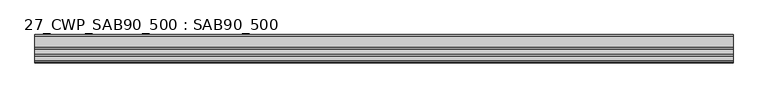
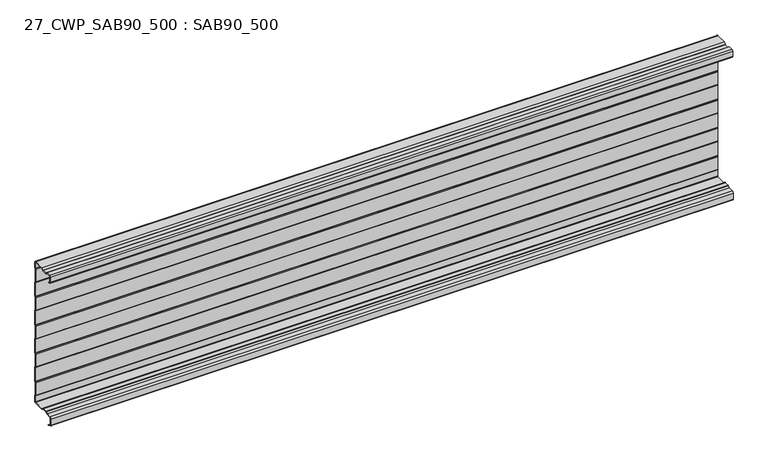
"""IFC4 building model written with IfcOpenShell, lengths in millimetres: plate geometry, 27_CWP_SAB90_500 : SAB90_500."""

import ifcopenshell
import ifcopenshell.guid

model = None  # the IFC model being written
_history = None  # IfcOwnerHistory: only IFC2X3 demands one
_inside = {}  # id of a spatial element -> (the spatial element, [elements in it])
_under = {}  # id of a project, library or spatial element -> (it, [spatial elements below it])
_declared = {}  # id of a project -> (the project, [libraries it declares])
_typed = {}  # id of a type object -> (the type object, [elements of that type])
_made_of = {}  # id of a material, layer set ... -> (it, [elements and type objects made of it])


def new_model(schema):
    """Start an empty IFC model of exactly this schema.

    Asked for "IFC4X3", IfcOpenShell would pick the latest addendum, in which some entities
    have other attributes; the version numbers below select the first issue.
    IFC2X3 requires an IfcOwnerHistory on every rooted entity: one is made here for all.
    """
    global model, _history
    if schema == "IFC4X3":
        model = ifcopenshell.file(schema_version=(4, 3, 0, 0))
    else:
        model = ifcopenshell.file(schema=schema)
    _inside.clear()
    _under.clear()
    _declared.clear()
    _typed.clear()
    _made_of.clear()
    _history = None
    if model.schema == "IFC2X3":
        org = make("IfcOrganization", Name="unknown")
        user = make(
            "IfcPersonAndOrganization",
            ThePerson=make("IfcPerson", FamilyName="unknown"),
            TheOrganization=org,
        )
        app = make(
            "IfcApplication",
            ApplicationDeveloper=org,
            Version="unknown",
            ApplicationFullName="unknown",
            ApplicationIdentifier="unknown",
        )
        _history = make(
            "IfcOwnerHistory",
            OwningUser=user,
            OwningApplication=app,
            ChangeAction="ADDED",
            CreationDate=0,
        )
    return model


def make(cls, **values):
    """One entity of the class cls with the attributes given. An attribute that is None is left unset."""
    return model.create_entity(
        cls, **{name: value for name, value in values.items() if value is not None}
    )


def rooted(cls, **values):
    """An entity with a GlobalId (a new one), such as an element, a storey or a relation."""
    return make(cls, GlobalId=ifcopenshell.guid.new(), OwnerHistory=_history, **values)


def si_unit(unit_type, name, prefix=None):
    """IfcSIUnit, for example si_unit("LENGTHUNIT", "METRE", prefix="MILLI")."""
    return make("IfcSIUnit", UnitType=unit_type, Prefix=prefix, Name=name)


def assignment(units):
    """IfcUnitAssignment: the units of a project."""
    return None if units is None else make("IfcUnitAssignment", Units=units)


def point(xyz):
    """IfcCartesianPoint."""
    return None if xyz is None else make("IfcCartesianPoint", Coordinates=xyz)


def direction(xyz):
    """IfcDirection."""
    return None if xyz is None else make("IfcDirection", DirectionRatios=xyz)


def frame(location, z_axis=None, x_axis=None):
    """IfcAxis2Placement3D, a coordinate frame: its origin and axes. An axis left out is left unset."""
    return make(
        "IfcAxis2Placement3D",
        Location=point(location),
        Axis=direction(z_axis),
        RefDirection=direction(x_axis),
    )


def frame_2d(location, x_axis=None):
    """IfcAxis2Placement2D, a coordinate frame in the plane: its origin and x axis."""
    return make(
        "IfcAxis2Placement2D", Location=point(location), RefDirection=direction(x_axis)
    )


def origin():
    """The frame at (0, 0, 0) with its axes left unset."""
    return frame((0.0, 0.0, 0.0))


def place(relative_to, where):
    """IfcLocalPlacement: puts the frame where relative to a parent placement (None: the world)."""
    return make(
        "IfcLocalPlacement", PlacementRelTo=relative_to, RelativePlacement=where
    )


def context(
    kind, dimensions, precision=None, world=None, true_north=None, identifier=None
):
    """IfcGeometricRepresentationContext, for example the 3D "Model" context."""
    return make(
        "IfcGeometricRepresentationContext",
        ContextIdentifier=identifier,
        ContextType=kind,
        CoordinateSpaceDimension=dimensions,
        Precision=precision,
        WorldCoordinateSystem=world,
        TrueNorth=true_north,
    )


def project(units=None, contexts=None):
    """IfcProject with its units and contexts."""
    return rooted(
        "IfcProject",
        Name="project",
        RepresentationContexts=contexts,
        UnitsInContext=assignment(units),
    )


def spatial(cls, under=None, at=None, **own):
    """A site, building, storey or space (cls), placed at a placement, below another one or the project."""
    s = rooted(cls, ObjectPlacement=at, **own)
    if under is not None:
        _under.setdefault(under.id(), (under, []))[1].append(s)
    return s


def polyline(points):
    """IfcPolyline through the points."""
    return make("IfcPolyline", Points=[point(p) for p in points])


def circle_curve(where, radius):
    """IfcCircle in the frame where."""
    return make("IfcCircle", Position=where, Radius=radius)


def trimmed(basis, trim1, trim2, sense, master):
    """IfcTrimmedCurve: the piece of a basis curve between two trims."""
    return make(
        "IfcTrimmedCurve",
        BasisCurve=basis,
        Trim1=trim1,
        Trim2=trim2,
        SenseAgreement=sense,
        MasterRepresentation=master,
    )


def segment(curve, same_sense, transition):
    """IfcCompositeCurveSegment."""
    return make(
        "IfcCompositeCurveSegment",
        Transition=transition,
        SameSense=same_sense,
        ParentCurve=curve,
    )


def composite_curve(segments, self_intersect=None):
    """IfcCompositeCurve: segments joined end to end."""
    return make("IfcCompositeCurve", Segments=segments, SelfIntersect=self_intersect)


def outline(outer, holes=None, kind="AREA"):
    """IfcArbitraryClosedProfileDef: a profile drawn as a closed curve; with holes, ...WithVoids."""
    if holes is None:
        return make("IfcArbitraryClosedProfileDef", ProfileType=kind, OuterCurve=outer)
    return make(
        "IfcArbitraryProfileDefWithVoids",
        ProfileType=kind,
        OuterCurve=outer,
        InnerCurves=holes,
    )


def extrude(swept, where, along, depth):
    """IfcExtrudedAreaSolid: the profile swept, set in the frame where, extruded along a direction by depth."""
    return make(
        "IfcExtrudedAreaSolid",
        SweptArea=swept,
        Position=where,
        ExtrudedDirection=direction(along),
        Depth=depth,
    )


def shape(context_of_items, identifier, shape_type, items):
    """IfcShapeRepresentation: the items that make up one representation, for example the "Body"."""
    return make(
        "IfcShapeRepresentation",
        ContextOfItems=context_of_items,
        RepresentationIdentifier=identifier,
        RepresentationType=shape_type,
        Items=items,
    )


def source(mapping_origin, context_of_items, identifier, shape_type, items):
    """IfcRepresentationMap: a shape defined once, which mapped items show again and again."""
    return make(
        "IfcRepresentationMap",
        MappingOrigin=mapping_origin,
        MappedRepresentation=shape(context_of_items, identifier, shape_type, items),
    )


def transform(
    local_origin,
    x_axis=None,
    y_axis=None,
    z_axis=None,
    scale=None,
    scale2=None,
    scale3=None,
    uniform=True,
):
    """IfcCartesianTransformationOperator3D, or its non-uniform kind. x_axis, y_axis, z_axis: its Axis1, 2, 3."""
    if uniform:
        return make(
            "IfcCartesianTransformationOperator3D",
            Axis1=direction(x_axis),
            Axis2=direction(y_axis),
            LocalOrigin=point(local_origin),
            Scale=scale,
            Axis3=direction(z_axis),
        )
    return make(
        "IfcCartesianTransformationOperator3DnonUniform",
        Axis1=direction(x_axis),
        Axis2=direction(y_axis),
        LocalOrigin=point(local_origin),
        Scale=scale,
        Axis3=direction(z_axis),
        Scale2=scale2,
        Scale3=scale3,
    )


def mapped(mapping_source, mapping_target):
    """IfcMappedItem: shows the shape of a source again, moved by a transform."""
    return make(
        "IfcMappedItem", MappingSource=mapping_source, MappingTarget=mapping_target
    )


def made_of(thing, what):
    """Note that an element or type object is made of a material, layer set ...; save() writes the relation."""
    if what is not None:
        _made_of.setdefault(what.id(), (what, []))[1].append(thing)
    return thing


def element(
    cls,
    number,
    at=None,
    inside=None,
    cuts=None,
    type_object=None,
    material=None,
    context=None,
    identifier="Body",
    shape_type=None,
    held_by="IfcProductDefinitionShape",
    body=None,
    shapes=None,
    **own,
):
    """One element of the class cls, such as IfcWall. Its Tag is "e" and its number.

    at: its placement. inside: the storey or other place that contains it. cuts: it is an
    opening in that element (IfcRelVoidsElement). A single representation is given by context,
    identifier, shape_type and body (its items); several are given by shapes. held_by: the class
    of the entity that holds the representations. save() writes the other relations.
    """
    e = rooted(cls, Tag="e%d" % number, ObjectPlacement=at, **own)
    if body is not None:
        shapes = [shape(context, identifier, shape_type, body)]
    if shapes is not None:
        e.Representation = make(held_by, Representations=shapes)
    if inside is not None:
        _inside.setdefault(inside.id(), (inside, []))[1].append(e)
    if cuts is not None:
        rooted(
            "IfcRelVoidsElement", RelatingBuildingElement=cuts, RelatedOpeningElement=e
        )
    if type_object is not None:
        _typed.setdefault(type_object.id(), (type_object, []))[1].append(e)
    return made_of(e, material)


def aggregate(whole, parts):
    """IfcRelAggregates: a whole, such as a stair, and the parts it consists of."""
    return rooted("IfcRelAggregates", RelatingObject=whole, RelatedObjects=parts)


def save(model, path):
    """Write the relations noted so far, then the file.

    IfcRelAggregates (storeys below a building ...), IfcRelContainedInSpatialStructure (elements
    in a storey), IfcRelDefinesByType, IfcRelAssociatesMaterial and IfcRelDeclares: one each for
    every whole, place, type object, material and project.
    """
    for whole, parts in _under.values():
        aggregate(whole, parts)
    for where, things in _inside.values():
        rooted(
            "IfcRelContainedInSpatialStructure",
            RelatedElements=things,
            RelatingStructure=where,
        )
    for kind, things in _typed.values():
        rooted("IfcRelDefinesByType", RelatedObjects=things, RelatingType=kind)
    for what, things in _made_of.values():
        rooted("IfcRelAssociatesMaterial", RelatedObjects=things, RelatingMaterial=what)
    for by, libraries in _declared.values():
        rooted("IfcRelDeclares", RelatingContext=by, RelatedDefinitions=libraries)
    model.write(path)


def plate_27_cwp_sab90_500_sab90_500_d7a8fa43(model_context):
    return source(origin(), model_context, "Body", "SweptSolid", [
        extrude(outline(composite_curve([segment(polyline([(6.3159597, 475.9214449), (11.2015813, 474.1432241), (10.517541, 472.2638389), (5.6319194, 474.0420597)]), True, "CONTINUOUS"), segment(trimmed(circle_curve(frame_2d((7.0, 477.8008302)), 4.0), [point((5.6319194, 474.0420597))], [point((3.0, 477.8008302))], False, "CARTESIAN"), True, "CONTINUOUS"), segment(polyline([(3.0, 477.8008302), (3.0, 496.0)]), True, "CONTINUOUS"), segment(trimmed(circle_curve(frame_2d((7.0, 496.0)), 4.0), [point((3.0, 496.0))], [point((7.0, 500.0))], False, "CARTESIAN"), True, "CONTINUOUS"), segment(polyline([(7.0, 500.0), (22.0, 500.0), (28.4784537, 495.3725331)]), True, "CONTINUOUS"), segment(trimmed(circle_curve(frame_2d((29.6409301, 497.0)), 2.0), [point((28.4784537, 495.3725331))], [point((29.6409301, 495.0))], True, "CARTESIAN"), True, "CONTINUOUS"), segment(polyline([(29.6409301, 495.0), (44.3590699, 495.0)]), True, "CONTINUOUS"), segment(trimmed(circle_curve(frame_2d((44.3590699, 497.0)), 2.0), [point((44.3590699, 495.0))], [point((45.5215463, 495.3725331))], True, "CARTESIAN"), True, "CONTINUOUS"), segment(polyline([(45.5215463, 495.3725331), (52.0, 500.0), (88.0, 500.0)]), True, "CONTINUOUS"), segment(trimmed(circle_curve(frame_2d((88.0, 496.0)), 4.0), [point((88.0, 500.0))], [point((92.0, 496.0))], False, "CARTESIAN"), True, "CONTINUOUS"), segment(polyline([(92.0, 496.0), (92.0, 475.0), (90.5857864, 473.5857864)]), True, "CONTINUOUS"), segment(trimmed(circle_curve(frame_2d((92.0, 472.1715729)), 2.0), [point((90.5857864, 473.5857864))], [point((90.0, 472.1715729))], True, "CARTESIAN"), True, "CONTINUOUS"), segment(polyline([(90.0, 472.1715729), (90.0, 427.8284271)]), True, "CONTINUOUS"), segment(trimmed(circle_curve(frame_2d((92.0, 427.8284271)), 2.0), [point((90.0, 427.8284271))], [point((90.5857864, 426.4142136))], True, "CARTESIAN"), True, "CONTINUOUS"), segment(polyline([(90.5857864, 426.4142136), (92.0, 425.0), (92.0, 375.0), (90.5857864, 373.5857864)]), True, "CONTINUOUS"), segment(trimmed(circle_curve(frame_2d((92.0, 372.1715729)), 2.0), [point((90.5857864, 373.5857864))], [point((90.0, 372.1715729))], True, "CARTESIAN"), True, "CONTINUOUS"), segment(polyline([(90.0, 372.1715729), (90.0, 327.8284271)]), True, "CONTINUOUS"), segment(trimmed(circle_curve(frame_2d((92.0, 327.8284271)), 2.0), [point((90.0, 327.8284271))], [point((90.5857864, 326.4142136))], True, "CARTESIAN"), True, "CONTINUOUS"), segment(polyline([(90.5857864, 326.4142136), (92.0, 325.0), (92.0, 275.0), (90.5857864, 273.5857864)]), True, "CONTINUOUS"), segment(trimmed(circle_curve(frame_2d((92.0, 272.1715729)), 2.0), [point((90.5857864, 273.5857864))], [point((90.0, 272.1715729))], True, "CARTESIAN"), True, "CONTINUOUS"), segment(polyline([(90.0, 272.1715729), (90.0, 227.8284271)]), True, "CONTINUOUS"), segment(trimmed(circle_curve(frame_2d((92.0, 227.8284271)), 2.0), [point((90.0, 227.8284271))], [point((90.5857864, 226.4142136))], True, "CARTESIAN"), True, "CONTINUOUS"), segment(polyline([(90.5857864, 226.4142136), (92.0, 225.0), (92.0, 175.0), (90.5857864, 173.5857864)]), True, "CONTINUOUS"), segment(trimmed(circle_curve(frame_2d((92.0, 172.1715729)), 2.0), [point((90.5857864, 173.5857864))], [point((90.0, 172.1715729))], True, "CARTESIAN"), True, "CONTINUOUS"), segment(polyline([(90.0, 172.1715729), (90.0, 127.8284271)]), True, "CONTINUOUS"), segment(trimmed(circle_curve(frame_2d((92.0, 127.8284271)), 2.0), [point((90.0, 127.8284271))], [point((90.5857864, 126.4142136))], True, "CARTESIAN"), True, "CONTINUOUS"), segment(polyline([(90.5857864, 126.4142136), (92.0, 125.0), (92.0, 75.0), (90.5857864, 73.5857864)]), True, "CONTINUOUS"), segment(trimmed(circle_curve(frame_2d((92.0, 72.1715729)), 2.0), [point((90.5857864, 73.5857864))], [point((90.0, 72.1715729))], True, "CARTESIAN"), True, "CONTINUOUS"), segment(polyline([(90.0, 72.1715729), (90.0, 27.8284271)]), True, "CONTINUOUS"), segment(trimmed(circle_curve(frame_2d((92.0, 27.8284271)), 2.0), [point((90.0, 27.8284271))], [point((90.5857864, 26.4142136))], True, "CARTESIAN"), True, "CONTINUOUS"), segment(polyline([(90.5857864, 26.4142136), (92.0, 25.0), (92.0, 4.0)]), True, "CONTINUOUS"), segment(trimmed(circle_curve(frame_2d((88.0, 4.0)), 4.0), [point((92.0, 4.0))], [point((88.0, 0.0))], False, "CARTESIAN"), True, "CONTINUOUS"), segment(polyline([(88.0, 0.0), (52.0, 0.0), (45.5215463, 4.6274669)]), True, "CONTINUOUS"), segment(trimmed(circle_curve(frame_2d((44.3590699, 3.0)), 2.0), [point((45.5215463, 4.6274669))], [point((44.3590699, 5.0))], True, "CARTESIAN"), True, "CONTINUOUS"), segment(polyline([(44.3590699, 5.0), (29.6409301, 5.0)]), True, "CONTINUOUS"), segment(trimmed(circle_curve(frame_2d((29.6409301, 3.0)), 2.0), [point((29.6409301, 5.0))], [point((28.4784537, 4.6274669))], True, "CARTESIAN"), True, "CONTINUOUS"), segment(polyline([(28.4784537, 4.6274669), (22.0, 0.0), (6.0, 0.0)]), True, "CONTINUOUS"), segment(trimmed(circle_curve(frame_2d((6.0, -4.0)), 4.0), [point((6.0, 0.0))], [point((2.0, -4.0))], True, "CARTESIAN"), True, "CONTINUOUS"), segment(polyline([(2.0, -4.0), (2.0, -24.1991698)]), True, "CONTINUOUS"), segment(trimmed(circle_curve(frame_2d((6.0, -24.1991698)), 4.0), [point((2.0, -24.1991698))], [point((4.6319194, -27.9579403))], True, "CARTESIAN"), True, "CONTINUOUS"), segment(polyline([(4.6319194, -27.9579403), (16.0953893, -32.1303021), (15.411349, -34.0096874), (3.9478791, -29.8373256)]), True, "CONTINUOUS"), segment(trimmed(circle_curve(frame_2d((6.0, -24.1991698)), 6.0), [point((3.9478791, -29.8373256))], [point((0.0, -24.1991698))], False, "CARTESIAN"), True, "CONTINUOUS"), segment(polyline([(0.0, -24.1991698), (0.0, -4.0)]), True, "CONTINUOUS"), segment(trimmed(circle_curve(frame_2d((6.0, -4.0)), 6.0), [point((0.0, -4.0))], [point((6.0, 2.0))], False, "CARTESIAN"), True, "CONTINUOUS"), segment(polyline([(6.0, 2.0), (21.3590699, 2.0), (27.3159773, 6.2549339)]), True, "CONTINUOUS"), segment(trimmed(circle_curve(frame_2d((29.6409301, 3.0)), 4.0), [point((27.3159773, 6.2549339))], [point((29.6409301, 7.0))], False, "CARTESIAN"), True, "CONTINUOUS"), segment(polyline([(29.6409301, 7.0), (44.3590699, 7.0)]), True, "CONTINUOUS"), segment(trimmed(circle_curve(frame_2d((44.3590699, 3.0)), 4.0), [point((44.3590699, 7.0))], [point((46.6840227, 6.2549339))], False, "CARTESIAN"), True, "CONTINUOUS"), segment(polyline([(46.6840227, 6.2549339), (52.6409301, 2.0), (88.0, 2.0)]), True, "CONTINUOUS"), segment(trimmed(circle_curve(frame_2d((88.0, 4.0)), 2.0), [point((88.0, 2.0))], [point((90.0, 4.0))], True, "CARTESIAN"), True, "CONTINUOUS"), segment(polyline([(90.0, 4.0), (90.0, 24.1715729), (89.1715729, 25.0)]), True, "CONTINUOUS"), segment(trimmed(circle_curve(frame_2d((92.0, 27.8284271)), 4.0), [point((89.1715729, 25.0))], [point((88.0, 27.8284271))], False, "CARTESIAN"), True, "CONTINUOUS"), segment(polyline([(88.0, 27.8284271), (88.0, 72.1715729)]), True, "CONTINUOUS"), segment(trimmed(circle_curve(frame_2d((92.0, 72.1715729)), 4.0), [point((88.0, 72.1715729))], [point((89.1715729, 75.0))], False, "CARTESIAN"), True, "CONTINUOUS"), segment(polyline([(89.1715729, 75.0), (90.0, 75.8284271), (90.0, 124.1715729), (89.1715729, 125.0)]), True, "CONTINUOUS"), segment(trimmed(circle_curve(frame_2d((92.0, 127.8284271)), 4.0), [point((89.1715729, 125.0))], [point((88.0, 127.8284271))], False, "CARTESIAN"), True, "CONTINUOUS"), segment(polyline([(88.0, 127.8284271), (88.0, 172.1715729)]), True, "CONTINUOUS"), segment(trimmed(circle_curve(frame_2d((92.0, 172.1715729)), 4.0), [point((88.0, 172.1715729))], [point((89.1715729, 175.0))], False, "CARTESIAN"), True, "CONTINUOUS"), segment(polyline([(89.1715729, 175.0), (90.0, 175.8284271), (90.0, 224.1715729), (89.1715729, 225.0)]), True, "CONTINUOUS"), segment(trimmed(circle_curve(frame_2d((92.0, 227.8284271)), 4.0), [point((89.1715729, 225.0))], [point((88.0, 227.8284271))], False, "CARTESIAN"), True, "CONTINUOUS"), segment(polyline([(88.0, 227.8284271), (88.0, 272.1715729)]), True, "CONTINUOUS"), segment(trimmed(circle_curve(frame_2d((92.0, 272.1715729)), 4.0), [point((88.0, 272.1715729))], [point((89.1715729, 275.0))], False, "CARTESIAN"), True, "CONTINUOUS"), segment(polyline([(89.1715729, 275.0), (90.0, 275.8284271), (90.0, 324.1715729), (89.1715729, 325.0)]), True, "CONTINUOUS"), segment(trimmed(circle_curve(frame_2d((92.0, 327.8284271)), 4.0), [point((89.1715729, 325.0))], [point((88.0, 327.8284271))], False, "CARTESIAN"), True, "CONTINUOUS"), segment(polyline([(88.0, 327.8284271), (88.0, 372.1715729)]), True, "CONTINUOUS"), segment(trimmed(circle_curve(frame_2d((92.0, 372.1715729)), 4.0), [point((88.0, 372.1715729))], [point((89.1715729, 375.0))], False, "CARTESIAN"), True, "CONTINUOUS"), segment(polyline([(89.1715729, 375.0), (90.0, 375.8284271), (90.0, 424.1715729), (89.1715729, 425.0)]), True, "CONTINUOUS"), segment(trimmed(circle_curve(frame_2d((92.0, 427.8284271)), 4.0), [point((89.1715729, 425.0))], [point((88.0, 427.8284271))], False, "CARTESIAN"), True, "CONTINUOUS"), segment(polyline([(88.0, 427.8284271), (88.0, 472.1715729)]), True, "CONTINUOUS"), segment(trimmed(circle_curve(frame_2d((92.0, 472.1715729)), 4.0), [point((88.0, 472.1715729))], [point((89.1715729, 475.0))], False, "CARTESIAN"), True, "CONTINUOUS"), segment(polyline([(89.1715729, 475.0), (90.0, 475.8284271), (90.0, 496.0)]), True, "CONTINUOUS"), segment(trimmed(circle_curve(frame_2d((88.0, 496.0)), 2.0), [point((90.0, 496.0))], [point((88.0, 498.0))], True, "CARTESIAN"), True, "CONTINUOUS"), segment(polyline([(88.0, 498.0), (52.6409301, 498.0), (46.6840227, 493.7450661)]), True, "CONTINUOUS"), segment(trimmed(circle_curve(frame_2d((44.3590699, 497.0)), 4.0), [point((46.6840227, 493.7450661))], [point((44.3590699, 493.0))], False, "CARTESIAN"), True, "CONTINUOUS"), segment(polyline([(44.3590699, 493.0), (29.6409301, 493.0)]), True, "CONTINUOUS"), segment(trimmed(circle_curve(frame_2d((29.6409301, 497.0)), 4.0), [point((29.6409301, 493.0))], [point((27.3159773, 493.7450661))], False, "CARTESIAN"), True, "CONTINUOUS"), segment(polyline([(27.3159773, 493.7450661), (21.3590699, 498.0), (7.0, 498.0)]), True, "CONTINUOUS"), segment(trimmed(circle_curve(frame_2d((7.0, 496.0)), 2.0), [point((7.0, 498.0))], [point((5.0, 496.0))], True, "CARTESIAN"), True, "CONTINUOUS"), segment(polyline([(5.0, 496.0), (5.0, 477.8008302)]), True, "CONTINUOUS"), segment(trimmed(circle_curve(frame_2d((7.0, 477.8008302)), 2.0), [point((5.0, 477.8008302))], [point((6.3159597, 475.9214449))], True, "CARTESIAN"), True, "CONTINUOUS")], self_intersect=False)), frame((-1140.0, 0.0, 0.0), z_axis=(1.0, 0.0, 0.0), x_axis=(0.0, 1.0, 0.0)), (0.0, 0.0, 1.0), 2280.0),
    ])


if __name__ == "__main__":
    model = new_model("IFC4")
    model_context = context("Model", 3, world=origin())
    ifc_project = project(units=[si_unit("LENGTHUNIT", "METRE", prefix="MILLI")], contexts=[model_context])
    site = spatial("IfcSite", under=ifc_project)
    building = spatial("IfcBuilding", under=site)
    placement = place(None, origin())
    plate_27_cwp_sab90_500_sab90_500_shape = plate_27_cwp_sab90_500_sab90_500_d7a8fa43(model_context)
    element("IfcPlate", 1, ObjectType="27_CWP_SAB90_500 : SAB90_500", at=placement, inside=building, context=model_context, shape_type="MappedRepresentation", body=[
        mapped(plate_27_cwp_sab90_500_sab90_500_shape, transform((0.0, 0.0, 0.0), x_axis=(1.0, 0.0, 0.0), y_axis=(0.0, 1.0, 0.0), z_axis=(0.0, 0.0, 1.0))),
    ])
    save(model, "model.ifc")
